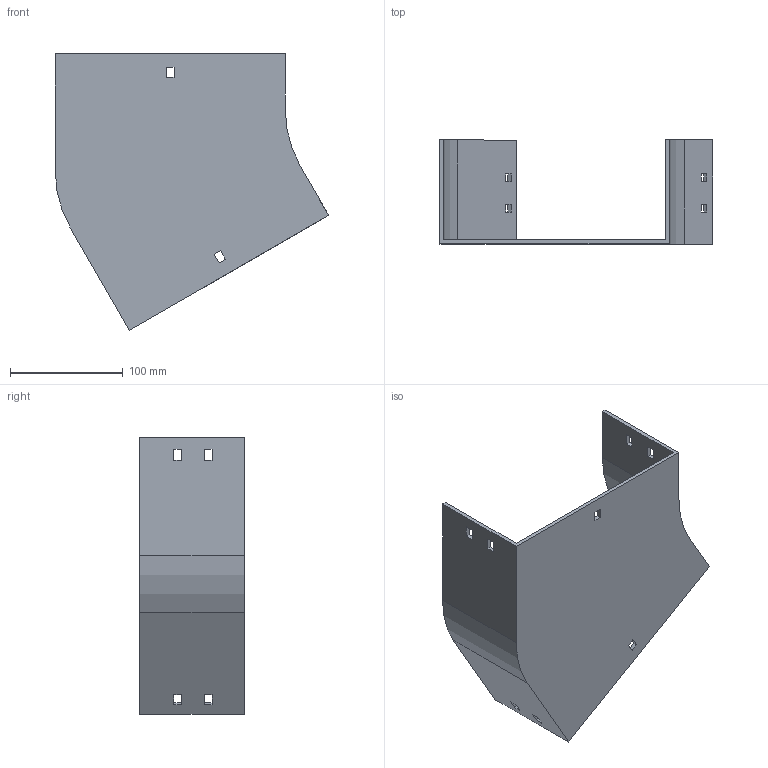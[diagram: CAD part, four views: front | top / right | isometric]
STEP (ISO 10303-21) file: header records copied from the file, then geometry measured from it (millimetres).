
FILE_DESCRIPTION (( 'STEP AP214' ), '1' );
FILE_NAME ('12B1I200.step', '2025-02-21T09:36:13', ( '' ), ( '' ), 'SwSTEP 2.0', 'SolidWorks 2023', '' );
FILE_SCHEMA (( 'AUTOMOTIVE_DESIGN' ));
Length unit declared in the file: millimetre
Products named in the file (1): 12B1I200
Bounding box: 242.4 x 92.5 x 245.3 mm (x, y, z)
Volume: 275296.5 mm3; surface area: 162604.4 mm2
Topology: 1 solids, 1 shells, 58 faces, 168 edges, 112 vertices
Faces by surface type: plane 54, cylinder 4
Entity records: 1943 total; most frequent: CARTESIAN_POINT 339, ORIENTED_EDGE 336, DIRECTION 294, EDGE_CURVE 168, LINE 160, VECTOR 160, VERTEX_POINT 112, EDGE_LOOP 78
